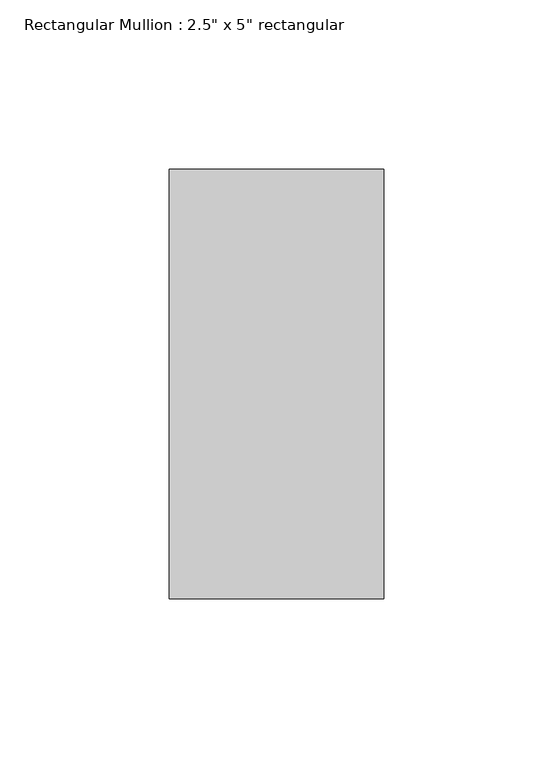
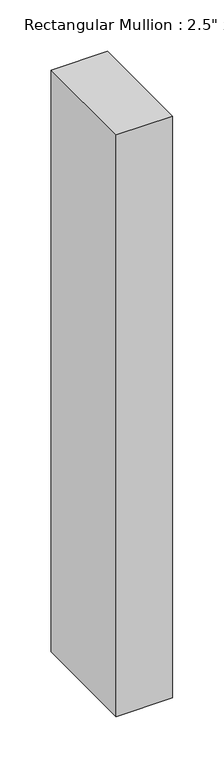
"""IFC4 building model written with IfcOpenShell, lengths in millimetres: member geometry."""

from ifc_helpers import new_model, si_unit, frame, origin, place, context, project, spatial, polyline, outline, extrude, source, transform, mapped, element, save


def member_ef392650(model_context):
    return source(origin(), model_context, "Body", "SweptSolid", [
        extrude(outline(polyline([(31.75, 63.5), (31.75, -63.5), (-31.75, -63.5), (-31.75, 63.5), (31.75, 63.5)])), frame((0.0, 0.0, -692.15), z_axis=(0.0, 0.0, 1.0), x_axis=(1.0, 0.0, 0.0)), (0.0, 0.0, 1.0), 692.15),
    ])


if __name__ == "__main__":
    model = new_model("IFC4")
    model_context = context("Model", 3, world=origin())
    ifc_project = project(units=[si_unit("LENGTHUNIT", "METRE", prefix="MILLI")], contexts=[model_context])
    site = spatial("IfcSite", under=ifc_project)
    building = spatial("IfcBuilding", under=site)
    placement = place(None, origin())
    member_shape = member_ef392650(model_context)
    element("IfcMember", 1, ObjectType="Rectangular Mullion : 2.5\" x 5\" rectangular", at=placement, inside=building, context=model_context, shape_type="MappedRepresentation", body=[
        mapped(member_shape, transform((0.0, 0.0, 0.0), x_axis=(1.0, 0.0, 0.0), y_axis=(0.0, 1.0, 0.0), z_axis=(0.0, 0.0, 1.0))),
    ])
    save(model, "model.ifc")
